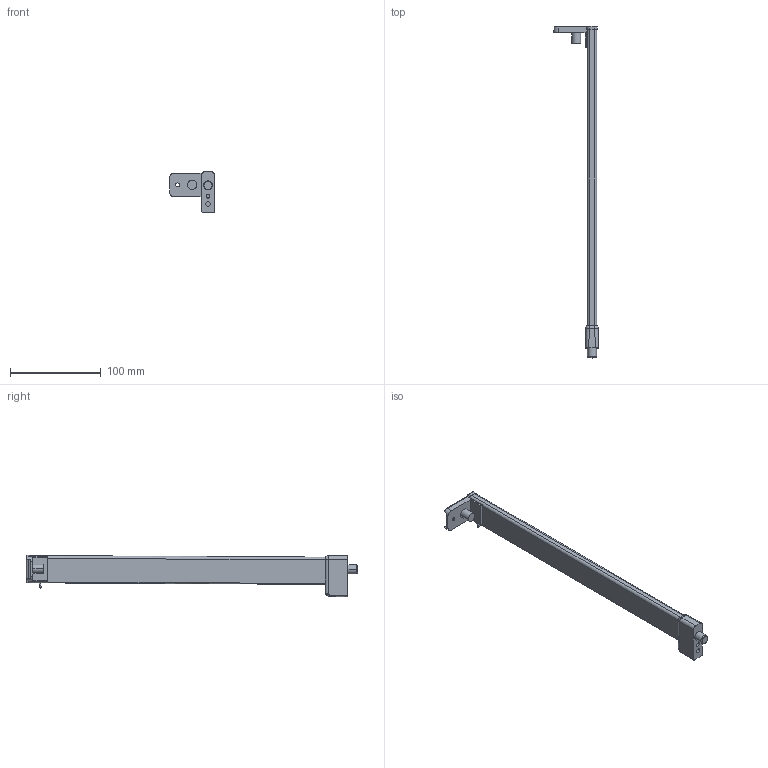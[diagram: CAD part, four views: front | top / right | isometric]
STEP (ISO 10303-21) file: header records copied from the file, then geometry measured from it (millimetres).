
FILE_DESCRIPTION (( 'STEP AP214' ), '1' );
FILE_NAME ('_2S_REL_7606_NL350_RE.step', '2010-07-01T14:41:33', ( 'grass' ), ( '' ), 'SwSTEP 2.0', 'SolidWorks 2009', '' );
FILE_SCHEMA (( 'AUTOMOTIVE_DESIGN' ));
Length unit declared in the file: millimetre
Products named in the file (1): _2S_REL_7606_NL350_RE
Bounding box: 49.25 x 365.5 x 45.4 mm (x, y, z)
Volume: 122988.2 mm3; surface area: 33689.7 mm2
Topology: 2 solids, 2 shells, 120 faces, 292 edges, 178 vertices
Faces by surface type: cylinder 58, plane 40, bspline 10, torus 6, cone 4, sphere 2
Entity records: 4659 total; most frequent: CARTESIAN_POINT 1934, ORIENTED_EDGE 580, DIRECTION 546, EDGE_CURVE 290, AXIS2_PLACEMENT_3D 203, VERTEX_POINT 178, LINE 140, VECTOR 140
